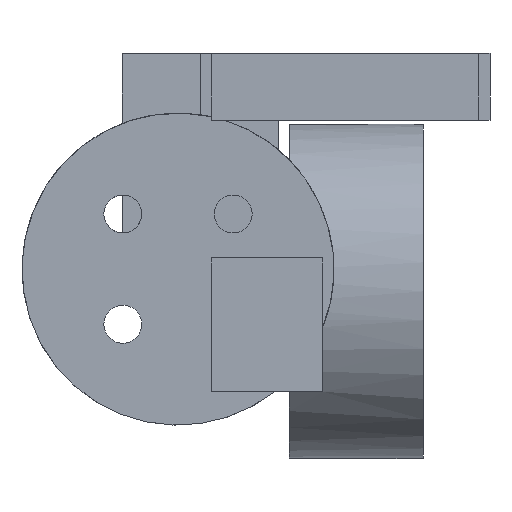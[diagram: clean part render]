
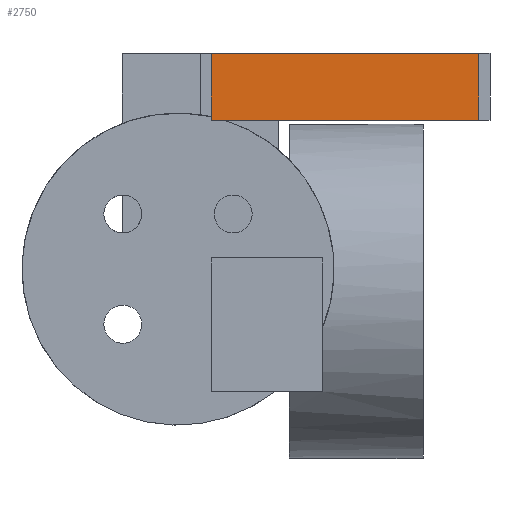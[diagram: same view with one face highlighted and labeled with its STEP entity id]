
A CAD part, front view. The second image highlights one B-rep face of the part: STEP entity #2750.
In plain terms, the highlighted planar face has unit normal (0, -1, 0).
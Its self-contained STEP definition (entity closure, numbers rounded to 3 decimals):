
#230 = PLANE('',#231);
#231 = AXIS2_PLACEMENT_3D('',#232,#233,#234);
#232 = CARTESIAN_POINT('',(32.,35.,205.736));
#233 = DIRECTION('',(0.,0.,1.));
#234 = DIRECTION('',(1.,0.,0.));
#257 = PLANE('',#258);
#258 = AXIS2_PLACEMENT_3D('',#259,#260,#261);
#259 = CARTESIAN_POINT('',(33.,32.5,205.736));
#260 = DIRECTION('',(1.,0.,0.));
#261 = DIRECTION('',(0.,0.,1.));
#937 = VERTEX_POINT('',#938);
#938 = CARTESIAN_POINT('',(33.,32.5,205.736));
#959 = EDGE_CURVE('',#937,#960,#962,.T.);
#960 = VERTEX_POINT('',#961);
#961 = CARTESIAN_POINT('',(57.,32.5,205.736));
#962 = SURFACE_CURVE('',#963,(#967,#974),.PCURVE_S1.);
#963 = LINE('',#964,#965);
#964 = CARTESIAN_POINT('',(33.,32.5,205.736));
#965 = VECTOR('',#966,1.);
#966 = DIRECTION('',(1.,0.,0.));
#967 = PCURVE('',#230,#968);
#968 = DEFINITIONAL_REPRESENTATION('',(#969),#973);
#969 = LINE('',#970,#971);
#970 = CARTESIAN_POINT('',(1.,-2.5));
#971 = VECTOR('',#972,1.);
#972 = DIRECTION('',(1.,0.));
#973 = ( GEOMETRIC_REPRESENTATION_CONTEXT(2) 
PARAMETRIC_REPRESENTATION_CONTEXT() REPRESENTATION_CONTEXT('2D SPACE',''
  ) );
#974 = PCURVE('',#975,#980);
#975 = PLANE('',#976);
#976 = AXIS2_PLACEMENT_3D('',#977,#978,#979);
#977 = CARTESIAN_POINT('',(33.,32.5,205.736));
#978 = DIRECTION('',(0.,1.,0.));
#979 = DIRECTION('',(0.,0.,1.));
#980 = DEFINITIONAL_REPRESENTATION('',(#981),#985);
#981 = LINE('',#982,#983);
#982 = CARTESIAN_POINT('',(0.,0.));
#983 = VECTOR('',#984,1.);
#984 = DIRECTION('',(0.,1.));
#985 = ( GEOMETRIC_REPRESENTATION_CONTEXT(2) 
PARAMETRIC_REPRESENTATION_CONTEXT() REPRESENTATION_CONTEXT('2D SPACE',''
  ) );
#1003 = PLANE('',#1004);
#1004 = AXIS2_PLACEMENT_3D('',#1005,#1006,#1007);
#1005 = CARTESIAN_POINT('',(57.,32.5,205.736));
#1006 = DIRECTION('',(1.,0.,0.));
#1007 = DIRECTION('',(0.,0.,1.));
#1551 = VERTEX_POINT('',#1552);
#1552 = CARTESIAN_POINT('',(33.,32.5,211.736));
#1568 = PLANE('',#1569);
#1569 = AXIS2_PLACEMENT_3D('',#1570,#1571,#1572);
#1570 = CARTESIAN_POINT('',(33.,32.5,211.736));
#1571 = DIRECTION('',(0.,0.,1.));
#1572 = DIRECTION('',(1.,0.,0.));
#1580 = EDGE_CURVE('',#937,#1551,#1581,.T.);
#1581 = SURFACE_CURVE('',#1582,(#1586,#1593),.PCURVE_S1.);
#1582 = LINE('',#1583,#1584);
#1583 = CARTESIAN_POINT('',(33.,32.5,205.736));
#1584 = VECTOR('',#1585,1.);
#1585 = DIRECTION('',(0.,0.,1.));
#1586 = PCURVE('',#257,#1587);
#1587 = DEFINITIONAL_REPRESENTATION('',(#1588),#1592);
#1588 = LINE('',#1589,#1590);
#1589 = CARTESIAN_POINT('',(0.,0.));
#1590 = VECTOR('',#1591,1.);
#1591 = DIRECTION('',(1.,0.));
#1592 = ( GEOMETRIC_REPRESENTATION_CONTEXT(2) 
PARAMETRIC_REPRESENTATION_CONTEXT() REPRESENTATION_CONTEXT('2D SPACE',''
  ) );
#1593 = PCURVE('',#975,#1594);
#1594 = DEFINITIONAL_REPRESENTATION('',(#1595),#1599);
#1595 = LINE('',#1596,#1597);
#1596 = CARTESIAN_POINT('',(0.,0.));
#1597 = VECTOR('',#1598,1.);
#1598 = DIRECTION('',(1.,0.));
#1599 = ( GEOMETRIC_REPRESENTATION_CONTEXT(2) 
PARAMETRIC_REPRESENTATION_CONTEXT() REPRESENTATION_CONTEXT('2D SPACE',''
  ) );
#2706 = VERTEX_POINT('',#2707);
#2707 = CARTESIAN_POINT('',(57.,32.5,211.736));
#2728 = EDGE_CURVE('',#960,#2706,#2729,.T.);
#2729 = SURFACE_CURVE('',#2730,(#2734,#2741),.PCURVE_S1.);
#2730 = LINE('',#2731,#2732);
#2731 = CARTESIAN_POINT('',(57.,32.5,205.736));
#2732 = VECTOR('',#2733,1.);
#2733 = DIRECTION('',(0.,0.,1.));
#2734 = PCURVE('',#1003,#2735);
#2735 = DEFINITIONAL_REPRESENTATION('',(#2736),#2740);
#2736 = LINE('',#2737,#2738);
#2737 = CARTESIAN_POINT('',(0.,0.));
#2738 = VECTOR('',#2739,1.);
#2739 = DIRECTION('',(1.,0.));
#2740 = ( GEOMETRIC_REPRESENTATION_CONTEXT(2) 
PARAMETRIC_REPRESENTATION_CONTEXT() REPRESENTATION_CONTEXT('2D SPACE',''
  ) );
#2741 = PCURVE('',#975,#2742);
#2742 = DEFINITIONAL_REPRESENTATION('',(#2743),#2747);
#2743 = LINE('',#2744,#2745);
#2744 = CARTESIAN_POINT('',(0.,24.));
#2745 = VECTOR('',#2746,1.);
#2746 = DIRECTION('',(1.,0.));
#2747 = ( GEOMETRIC_REPRESENTATION_CONTEXT(2) 
PARAMETRIC_REPRESENTATION_CONTEXT() REPRESENTATION_CONTEXT('2D SPACE',''
  ) );
#2750 = ADVANCED_FACE('',(#2751),#975,.F.);
#2751 = FACE_BOUND('',#2752,.F.);
#2752 = EDGE_LOOP('',(#2753,#2754,#2755,#2776));
#2753 = ORIENTED_EDGE('',*,*,#959,.F.);
#2754 = ORIENTED_EDGE('',*,*,#1580,.T.);
#2755 = ORIENTED_EDGE('',*,*,#2756,.T.);
#2756 = EDGE_CURVE('',#1551,#2706,#2757,.T.);
#2757 = SURFACE_CURVE('',#2758,(#2762,#2769),.PCURVE_S1.);
#2758 = LINE('',#2759,#2760);
#2759 = CARTESIAN_POINT('',(33.,32.5,211.736));
#2760 = VECTOR('',#2761,1.);
#2761 = DIRECTION('',(1.,0.,0.));
#2762 = PCURVE('',#975,#2763);
#2763 = DEFINITIONAL_REPRESENTATION('',(#2764),#2768);
#2764 = LINE('',#2765,#2766);
#2765 = CARTESIAN_POINT('',(6.,0.));
#2766 = VECTOR('',#2767,1.);
#2767 = DIRECTION('',(0.,1.));
#2768 = ( GEOMETRIC_REPRESENTATION_CONTEXT(2) 
PARAMETRIC_REPRESENTATION_CONTEXT() REPRESENTATION_CONTEXT('2D SPACE',''
  ) );
#2769 = PCURVE('',#1568,#2770);
#2770 = DEFINITIONAL_REPRESENTATION('',(#2771),#2775);
#2771 = LINE('',#2772,#2773);
#2772 = CARTESIAN_POINT('',(0.,0.));
#2773 = VECTOR('',#2774,1.);
#2774 = DIRECTION('',(1.,0.));
#2775 = ( GEOMETRIC_REPRESENTATION_CONTEXT(2) 
PARAMETRIC_REPRESENTATION_CONTEXT() REPRESENTATION_CONTEXT('2D SPACE',''
  ) );
#2776 = ORIENTED_EDGE('',*,*,#2728,.F.);
